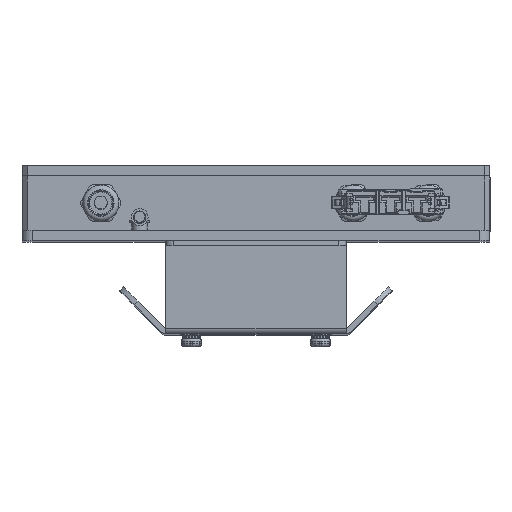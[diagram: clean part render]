
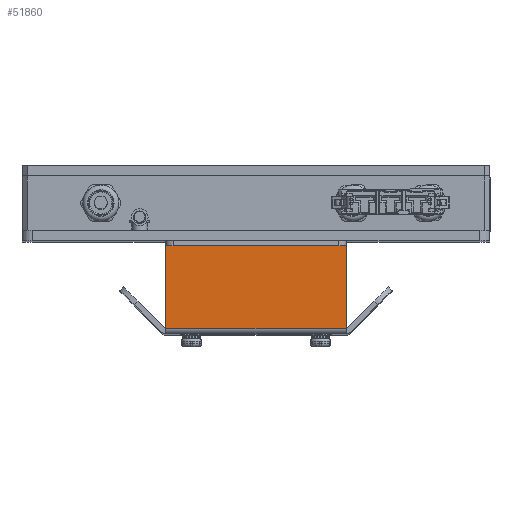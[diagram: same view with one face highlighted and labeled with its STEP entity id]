
A CAD part, top view. The second image highlights one B-rep face of the part: STEP entity #51860.
In plain terms, the highlighted planar face has unit normal (0, 0, 1).
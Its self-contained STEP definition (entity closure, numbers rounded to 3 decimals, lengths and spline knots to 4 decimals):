
#4393=FACE_OUTER_BOUND('',#7235,.T.);
#7235=EDGE_LOOP('',(#34540,#34541,#34542,#34543));
#10889=LINE('',#71871,#15841);
#10915=LINE('',#71946,#15867);
#10917=LINE('',#71950,#15869);
#10918=LINE('',#71951,#15870);
#15841=VECTOR('',#59853,0.3937);
#15867=VECTOR('',#59931,0.3937);
#15869=VECTOR('',#59935,0.3937);
#15870=VECTOR('',#59936,0.3937);
#20580=VERTEX_POINT('',#71868);
#20581=VERTEX_POINT('',#71870);
#20604=VERTEX_POINT('',#71945);
#20605=VERTEX_POINT('',#71949);
#25921=EDGE_CURVE('',#20580,#20581,#10889,.T.);
#25959=EDGE_CURVE('',#20604,#20581,#10915,.T.);
#25961=EDGE_CURVE('',#20605,#20604,#10917,.T.);
#25962=EDGE_CURVE('',#20605,#20580,#10918,.T.);
#34540=ORIENTED_EDGE('',*,*,#25961,.T.);
#34541=ORIENTED_EDGE('',*,*,#25959,.T.);
#34542=ORIENTED_EDGE('',*,*,#25921,.F.);
#34543=ORIENTED_EDGE('',*,*,#25962,.F.);
#47515=PLANE('',#54879);
#51860=ADVANCED_FACE('',(#4393),#47515,.T.);
#54879=AXIS2_PLACEMENT_3D('',#71948,#59933,#59934);
#59853=DIRECTION('',(0.,1.,0.));
#59931=DIRECTION('',(-1.,0.,0.));
#59933=DIRECTION('center_axis',(0.,0.,
1.));
#59934=DIRECTION('ref_axis',(0.,1.,0.));
#59935=DIRECTION('',(0.,1.,0.));
#59936=DIRECTION('',(-1.,0.,0.));
#71868=CARTESIAN_POINT('',(-7.1671,-1.4961,-1.4736));
#71870=CARTESIAN_POINT('',(-7.1671,-0.2362,-1.4736));
#71871=CARTESIAN_POINT('',(-7.1671,-1.4961,-1.4736));
#71945=CARTESIAN_POINT('',(-4.4112,-0.2362,-1.4736));
#71946=CARTESIAN_POINT('',(-4.4112,-0.2362,-1.4736));
#71948=CARTESIAN_POINT('Origin',(-4.4112,-1.4961,-1.4736));
#71949=CARTESIAN_POINT('',(-4.4112,-1.4961,-1.4736));
#71950=CARTESIAN_POINT('',(-4.4112,-1.4961,-1.4736));
#71951=CARTESIAN_POINT('',(-4.4112,-1.4961,-1.4736));
